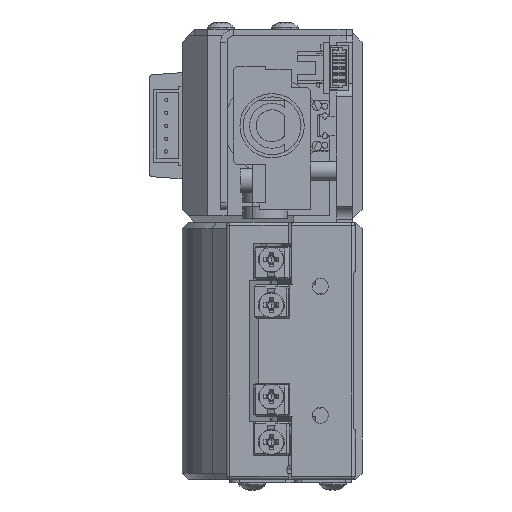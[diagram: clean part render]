
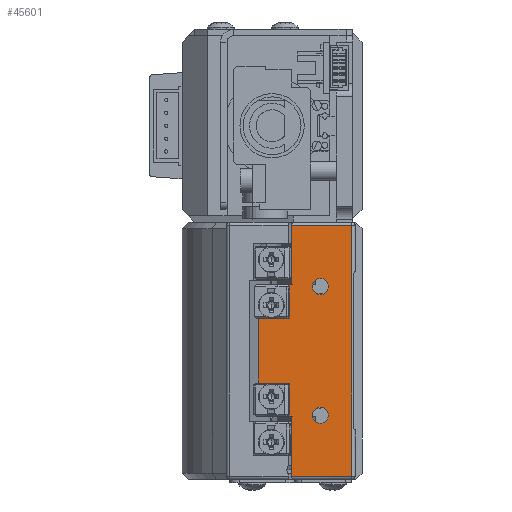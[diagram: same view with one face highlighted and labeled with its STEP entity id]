
A CAD part, left-side view. The second image highlights one B-rep face of the part: STEP entity #45601.
In plain terms, the highlighted planar face has unit normal (-1, 0, 0).
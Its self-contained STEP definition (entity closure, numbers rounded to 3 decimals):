
#167 = VERTEX_POINT ( 'NONE', #11425 ) ;
#511 = LINE ( 'NONE', #6047, #9041 ) ;
#1251 = AXIS2_PLACEMENT_3D ( 'NONE', #51384, #38672, #58155 ) ;
#1909 = CARTESIAN_POINT ( 'NONE',  ( -2.689, 17.257, 20.34 ) ) ;
#3806 = AXIS2_PLACEMENT_3D ( 'NONE', #81978, #41777, #56165 ) ;
#3842 = CARTESIAN_POINT ( 'NONE',  ( -2.689, 22.157, 29.09 ) ) ;
#4091 = DIRECTION ( 'NONE',  ( 0., 1., 0. ) ) ;
#4469 = VECTOR ( 'NONE', #31723, 1000. ) ;
#4540 = VECTOR ( 'NONE', #63889, 1000. ) ;
#4798 = DIRECTION ( 'NONE',  ( 0., 1., 0. ) ) ;
#4957 = VERTEX_POINT ( 'NONE', #16743 ) ;
#5563 = FACE_BOUND ( 'NONE', #21381, .T. ) ;
#6047 = CARTESIAN_POINT ( 'NONE',  ( -2.689, 27.136, 35.34 ) ) ;
#6200 = ORIENTED_EDGE ( 'NONE', *, *, #31370, .F. ) ;
#6258 = EDGE_CURVE ( 'NONE', #42977, #41481, #11121, .T. ) ;
#6734 = EDGE_CURVE ( 'NONE', #58859, #35739, #57627, .T. ) ;
#7035 = EDGE_CURVE ( 'NONE', #55809, #167, #26460, .T. ) ;
#7635 = CARTESIAN_POINT ( 'NONE',  ( -2.689, 27.136, 30.09 ) ) ;
#7645 = ORIENTED_EDGE ( 'NONE', *, *, #58589, .T. ) ;
#7722 = DIRECTION ( 'NONE',  ( 0., -1., 0. ) ) ;
#8476 = ORIENTED_EDGE ( 'NONE', *, *, #82411, .T. ) ;
#8861 = ORIENTED_EDGE ( 'NONE', *, *, #6734, .F. ) ;
#9041 = VECTOR ( 'NONE', #33093, 1000. ) ;
#9486 = DIRECTION ( 'NONE',  ( 0., 1., 0. ) ) ;
#10176 = VECTOR ( 'NONE', #4798, 1000. ) ;
#10221 = DIRECTION ( 'NONE',  ( 0., 0., -1. ) ) ;
#11105 = VECTOR ( 'NONE', #7722, 1000. ) ;
#11121 = LINE ( 'NONE', #62746, #10176 ) ;
#11425 = CARTESIAN_POINT ( 'NONE',  ( -2.689, 27.136, 50.59 ) ) ;
#11917 = FACE_OUTER_BOUND ( 'NONE', #53303, .T. ) ;
#12268 = CARTESIAN_POINT ( 'NONE',  ( -2.689, 31.757, 30.09 ) ) ;
#12549 = CARTESIAN_POINT ( 'NONE',  ( -2.689, 27.136, 35.34 ) ) ;
#12656 = VERTEX_POINT ( 'NONE', #3842 ) ;
#12784 = ORIENTED_EDGE ( 'NONE', *, *, #39607, .T. ) ;
#12977 = ORIENTED_EDGE ( 'NONE', *, *, #58064, .F. ) ;
#14408 = VECTOR ( 'NONE', #50596, 1000. ) ;
#16743 = CARTESIAN_POINT ( 'NONE',  ( -2.689, 22.157, 31.59 ) ) ;
#17035 = VERTEX_POINT ( 'NONE', #30695 ) ;
#19081 = CARTESIAN_POINT ( 'NONE',  ( -2.689, 31.757, 20.34 ) ) ;
#20735 = CARTESIAN_POINT ( 'NONE',  ( -2.689, 22.157, 51.59 ) ) ;
#21381 = EDGE_LOOP ( 'NONE', ( #8861, #64691 ) ) ;
#22284 = CIRCLE ( 'NONE', #69503, 1.25 ) ;
#23335 = CARTESIAN_POINT ( 'NONE',  ( -2.689, 26.598, 30.09 ) ) ;
#24020 = CARTESIAN_POINT ( 'NONE',  ( -2.689, 26.598, 30.09 ) ) ;
#24603 = DIRECTION ( 'NONE',  ( -1., 0., 0. ) ) ;
#25507 = EDGE_LOOP ( 'NONE', ( #78533, #42736 ) ) ;
#25727 = VERTEX_POINT ( 'NONE', #35507 ) ;
#25855 = DIRECTION ( 'NONE',  ( 0., 0., 1. ) ) ;
#25856 = CARTESIAN_POINT ( 'NONE',  ( -2.689, 31.757, 45.34 ) ) ;
#26370 = VECTOR ( 'NONE', #51547, 1000. ) ;
#26460 = LINE ( 'NONE', #65360, #14408 ) ;
#27383 = DIRECTION ( 'NONE',  ( -1., 0., 0. ) ) ;
#30695 = CARTESIAN_POINT ( 'NONE',  ( -2.689, 26.598, 50.59 ) ) ;
#31370 = EDGE_CURVE ( 'NONE', #17035, #41481, #33693, .T. ) ;
#31723 = DIRECTION ( 'NONE',  ( 0., 0., 1. ) ) ;
#32201 = CARTESIAN_POINT ( 'NONE',  ( -2.689, 22.157, 30.34 ) ) ;
#32849 = VECTOR ( 'NONE', #77664, 1000. ) ;
#32910 = LINE ( 'NONE', #57498, #26370 ) ;
#33093 = DIRECTION ( 'NONE',  ( 0., 0., -1. ) ) ;
#33693 = LINE ( 'NONE', #59523, #4469 ) ;
#35507 = CARTESIAN_POINT ( 'NONE',  ( -2.689, 31.757, 35.34 ) ) ;
#35739 = VERTEX_POINT ( 'NONE', #50769 ) ;
#35873 = CARTESIAN_POINT ( 'NONE',  ( -2.689, 17.257, 20.84 ) ) ;
#36863 = PLANE ( 'NONE',  #38811 ) ;
#37287 = DIRECTION ( 'NONE',  ( 0., -1., 0. ) ) ;
#38604 = EDGE_CURVE ( 'NONE', #72364, #52520, #59357, .T. ) ;
#38672 = DIRECTION ( 'NONE',  ( -1., 0., 0. ) ) ;
#38811 = AXIS2_PLACEMENT_3D ( 'NONE', #19081, #24603, #37287 ) ;
#39607 = EDGE_CURVE ( 'NONE', #52520, #42977, #53113, .T. ) ;
#40213 = CARTESIAN_POINT ( 'NONE',  ( -2.689, 26.598, 59.84 ) ) ;
#40525 = EDGE_CURVE ( 'NONE', #55809, #82951, #41746, .T. ) ;
#41106 = VECTOR ( 'NONE', #4091, 1000. ) ;
#41478 = EDGE_CURVE ( 'NONE', #4957, #12656, #22284, .T. ) ;
#41481 = VERTEX_POINT ( 'NONE', #40213 ) ;
#41725 = CARTESIAN_POINT ( 'NONE',  ( -2.689, 22.157, 50.34 ) ) ;
#41746 = LINE ( 'NONE', #55712, #41106 ) ;
#41777 = DIRECTION ( 'NONE',  ( -1., 0., 0. ) ) ;
#42736 = ORIENTED_EDGE ( 'NONE', *, *, #47092, .F. ) ;
#42977 = VERTEX_POINT ( 'NONE', #59044 ) ;
#44061 = AXIS2_PLACEMENT_3D ( 'NONE', #41725, #27383, #54030 ) ;
#44320 = CIRCLE ( 'NONE', #3806, 1.25 ) ;
#45601 = ADVANCED_FACE ( 'NONE', ( #5563, #50841, #11917 ), #36863, .T. ) ;
#45826 = VERTEX_POINT ( 'NONE', #7635 ) ;
#47092 = EDGE_CURVE ( 'NONE', #12656, #4957, #44320, .T. ) ;
#48331 = VERTEX_POINT ( 'NONE', #24020 ) ;
#49313 = DIRECTION ( 'NONE',  ( 0., -1., 0. ) ) ;
#49349 = ORIENTED_EDGE ( 'NONE', *, *, #53021, .T. ) ;
#50280 = EDGE_CURVE ( 'NONE', #35739, #58859, #60690, .T. ) ;
#50596 = DIRECTION ( 'NONE',  ( 0., 0., 1. ) ) ;
#50769 = CARTESIAN_POINT ( 'NONE',  ( -2.689, 22.157, 49.09 ) ) ;
#50841 = FACE_BOUND ( 'NONE', #25507, .T. ) ;
#51238 = ORIENTED_EDGE ( 'NONE', *, *, #64679, .T. ) ;
#51287 = ORIENTED_EDGE ( 'NONE', *, *, #6258, .T. ) ;
#51384 = CARTESIAN_POINT ( 'NONE',  ( -2.689, 22.157, 50.34 ) ) ;
#51547 = DIRECTION ( 'NONE',  ( 0., 0., 1. ) ) ;
#52185 = ORIENTED_EDGE ( 'NONE', *, *, #40525, .T. ) ;
#52520 = VERTEX_POINT ( 'NONE', #35873 ) ;
#53021 = EDGE_CURVE ( 'NONE', #25727, #56261, #56507, .T. ) ;
#53113 = LINE ( 'NONE', #1909, #32849 ) ;
#53303 = EDGE_LOOP ( 'NONE', ( #67914, #12784, #51287, #6200, #8476, #74110, #52185, #12977, #49349, #63742, #51238, #7645 ) ) ;
#54030 = DIRECTION ( 'NONE',  ( 0., 0., 1. ) ) ;
#54682 = LINE ( 'NONE', #23335, #58937 ) ;
#55712 = CARTESIAN_POINT ( 'NONE',  ( -2.689, 31.757, 45.34 ) ) ;
#55809 = VERTEX_POINT ( 'NONE', #64681 ) ;
#56165 = DIRECTION ( 'NONE',  ( 0., 0., 1. ) ) ;
#56261 = VERTEX_POINT ( 'NONE', #12549 ) ;
#56456 = LINE ( 'NONE', #82263, #77985 ) ;
#56507 = LINE ( 'NONE', #68761, #65131 ) ;
#57498 = CARTESIAN_POINT ( 'NONE',  ( -2.689, 31.757, 20.34 ) ) ;
#57627 = CIRCLE ( 'NONE', #44061, 1.25 ) ;
#58032 = DIRECTION ( 'NONE',  ( -1., 0., 0. ) ) ;
#58064 = EDGE_CURVE ( 'NONE', #25727, #82951, #32910, .T. ) ;
#58155 = DIRECTION ( 'NONE',  ( 0., 0., 1. ) ) ;
#58589 = EDGE_CURVE ( 'NONE', #48331, #72364, #54682, .T. ) ;
#58859 = VERTEX_POINT ( 'NONE', #20735 ) ;
#58937 = VECTOR ( 'NONE', #10221, 1000. ) ;
#59044 = CARTESIAN_POINT ( 'NONE',  ( -2.689, 17.257, 59.84 ) ) ;
#59357 = LINE ( 'NONE', #65685, #11105 ) ;
#59523 = CARTESIAN_POINT ( 'NONE',  ( -2.689, 26.598, 50.59 ) ) ;
#60690 = CIRCLE ( 'NONE', #1251, 1.25 ) ;
#62746 = CARTESIAN_POINT ( 'NONE',  ( -2.689, 31.757, 59.84 ) ) ;
#63742 = ORIENTED_EDGE ( 'NONE', *, *, #68236, .T. ) ;
#63889 = DIRECTION ( 'NONE',  ( 0., -1., 0. ) ) ;
#64679 = EDGE_CURVE ( 'NONE', #45826, #48331, #70228, .T. ) ;
#64681 = CARTESIAN_POINT ( 'NONE',  ( -2.689, 27.136, 45.34 ) ) ;
#64691 = ORIENTED_EDGE ( 'NONE', *, *, #50280, .F. ) ;
#65131 = VECTOR ( 'NONE', #49313, 1000. ) ;
#65360 = CARTESIAN_POINT ( 'NONE',  ( -2.689, 27.136, 45.34 ) ) ;
#65685 = CARTESIAN_POINT ( 'NONE',  ( -2.689, 16.757, 20.84 ) ) ;
#67914 = ORIENTED_EDGE ( 'NONE', *, *, #38604, .T. ) ;
#68236 = EDGE_CURVE ( 'NONE', #56261, #45826, #511, .T. ) ;
#68761 = CARTESIAN_POINT ( 'NONE',  ( -2.689, 31.757, 35.34 ) ) ;
#69503 = AXIS2_PLACEMENT_3D ( 'NONE', #32201, #58032, #25855 ) ;
#70228 = LINE ( 'NONE', #12268, #4540 ) ;
#72364 = VERTEX_POINT ( 'NONE', #74161 ) ;
#74110 = ORIENTED_EDGE ( 'NONE', *, *, #7035, .F. ) ;
#74161 = CARTESIAN_POINT ( 'NONE',  ( -2.689, 26.598, 20.84 ) ) ;
#77664 = DIRECTION ( 'NONE',  ( 0., 0., 1. ) ) ;
#77985 = VECTOR ( 'NONE', #9486, 1000. ) ;
#78533 = ORIENTED_EDGE ( 'NONE', *, *, #41478, .F. ) ;
#81978 = CARTESIAN_POINT ( 'NONE',  ( -2.689, 22.157, 30.34 ) ) ;
#82263 = CARTESIAN_POINT ( 'NONE',  ( -2.689, 31.757, 50.59 ) ) ;
#82411 = EDGE_CURVE ( 'NONE', #17035, #167, #56456, .T. ) ;
#82951 = VERTEX_POINT ( 'NONE', #25856 ) ;
